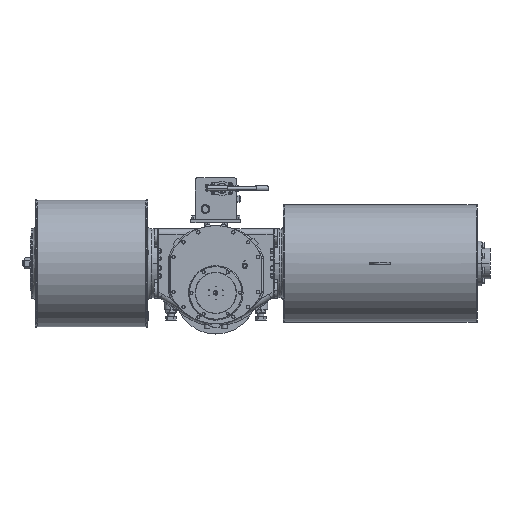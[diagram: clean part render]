
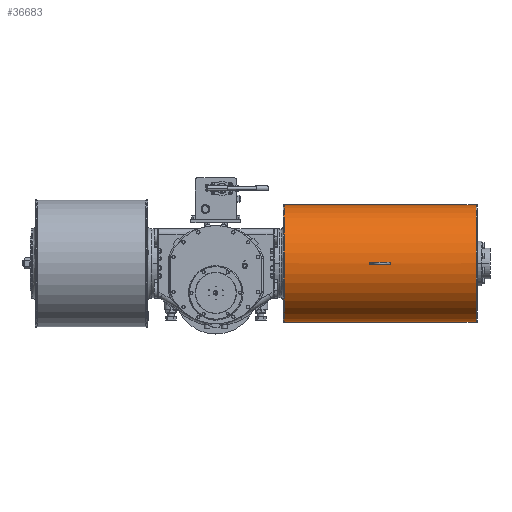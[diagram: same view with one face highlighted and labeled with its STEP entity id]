
A CAD part, top view. The second image highlights one B-rep face of the part: STEP entity #36683.
In plain terms, the highlighted cylindrical face has radius 340 mm (diameter 680 mm), a partial arc.
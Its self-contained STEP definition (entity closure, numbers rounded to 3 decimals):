
#25 = CARTESIAN_POINT ( 'NONE',  ( 892., 171., 478. ) ) ;
#1181 = ORIENTED_EDGE ( 'NONE', *, *, #56277, .T. ) ;
#2564 = DIRECTION ( 'NONE',  ( 1., 0., 0. ) ) ;
#2749 = VERTEX_POINT ( 'NONE', #79363 ) ;
#3417 = DIRECTION ( 'NONE',  ( -1., 0., 0. ) ) ;
#3441 = ORIENTED_EDGE ( 'NONE', *, *, #56937, .T. ) ;
#4214 = CARTESIAN_POINT ( 'NONE',  ( 1012., 166., 477.963 ) ) ;
#4279 = VECTOR ( 'NONE', #35803, 1000. ) ;
#5387 = CARTESIAN_POINT ( 'NONE',  ( 1502., 176., 477.963 ) ) ;
#7867 = DIRECTION ( 'NONE',  ( 0., -1., 0. ) ) ;
#8387 = DIRECTION ( 'NONE',  ( -1., 0., 0. ) ) ;
#9121 = CARTESIAN_POINT ( 'NONE',  ( 892., 171., 138. ) ) ;
#9366 = ORIENTED_EDGE ( 'NONE', *, *, #35135, .T. ) ;
#10139 = CARTESIAN_POINT ( 'NONE',  ( 1508.115, -169., 138. ) ) ;
#10150 = LINE ( 'NONE', #92891, #4279 ) ;
#10205 = CARTESIAN_POINT ( 'NONE',  ( 1508.115, 171., 138. ) ) ;
#12197 = EDGE_LOOP ( 'NONE', ( #9366, #64964, #1181, #30186 ) ) ;
#12862 = CIRCLE ( 'NONE', #23100, 340. ) ;
#13472 = ORIENTED_EDGE ( 'NONE', *, *, #54027, .T. ) ;
#14250 = CARTESIAN_POINT ( 'NONE',  ( 1502., 166., 477.963 ) ) ;
#17302 = VERTEX_POINT ( 'NONE', #4214 ) ;
#23100 = AXIS2_PLACEMENT_3D ( 'NONE', #37261, #53799, #78320 ) ;
#24879 = CARTESIAN_POINT ( 'NONE',  ( 1502., -169., 138. ) ) ;
#25179 = VECTOR ( 'NONE', #63548, 1000. ) ;
#25546 = CARTESIAN_POINT ( 'NONE',  ( 1012., 171., 138. ) ) ;
#27206 = VERTEX_POINT ( 'NONE', #35176 ) ;
#30014 = AXIS2_PLACEMENT_3D ( 'NONE', #52027, #3417, #75997 ) ;
#30186 = ORIENTED_EDGE ( 'NONE', *, *, #98047, .F. ) ;
#32142 = AXIS2_PLACEMENT_3D ( 'NONE', #10205, #42836, #65244 ) ;
#33519 = FACE_OUTER_BOUND ( 'NONE', #12197, .T. ) ;
#35135 = EDGE_CURVE ( 'NONE', #52265, #55415, #64515, .T. ) ;
#35176 = CARTESIAN_POINT ( 'NONE',  ( 892., 166., 477.963 ) ) ;
#35392 = ORIENTED_EDGE ( 'NONE', *, *, #88482, .F. ) ;
#35803 = DIRECTION ( 'NONE',  ( -1., 0., 0. ) ) ;
#36346 = LINE ( 'NONE', #14250, #51931 ) ;
#36683 = ADVANCED_FACE ( 'NONE', ( #65532, #33519 ), #41532, .T. ) ;
#37261 = CARTESIAN_POINT ( 'NONE',  ( 395.885, 171., 138. ) ) ;
#41532 = CYLINDRICAL_SURFACE ( 'NONE', #83234, 340. ) ;
#42836 = DIRECTION ( 'NONE',  ( -1., 0., 0. ) ) ;
#45174 = EDGE_CURVE ( 'NONE', #66123, #70833, #73249, .T. ) ;
#47051 = AXIS2_PLACEMENT_3D ( 'NONE', #25546, #2564, #58657 ) ;
#48184 = ORIENTED_EDGE ( 'NONE', *, *, #45174, .T. ) ;
#51931 = VECTOR ( 'NONE', #87909, 1000. ) ;
#52027 = CARTESIAN_POINT ( 'NONE',  ( 892., 171., 138. ) ) ;
#52265 = VERTEX_POINT ( 'NONE', #10139 ) ;
#52874 = AXIS2_PLACEMENT_3D ( 'NONE', #9121, #84360, #99352 ) ;
#53415 = EDGE_CURVE ( 'NONE', #55415, #62810, #10150, .T. ) ;
#53799 = DIRECTION ( 'NONE',  ( 1., 0., 0. ) ) ;
#54027 = EDGE_CURVE ( 'NONE', #2749, #85283, #91334, .T. ) ;
#55234 = CARTESIAN_POINT ( 'NONE',  ( 1508.115, 511., 138. ) ) ;
#55415 = VERTEX_POINT ( 'NONE', #55234 ) ;
#56277 = EDGE_CURVE ( 'NONE', #62810, #60691, #12862, .T. ) ;
#56937 = EDGE_CURVE ( 'NONE', #17302, #27206, #36346, .T. ) ;
#58657 = DIRECTION ( 'NONE',  ( 0., 0., 1. ) ) ;
#60691 = VERTEX_POINT ( 'NONE', #85541 ) ;
#62810 = VERTEX_POINT ( 'NONE', #94186 ) ;
#63543 = EDGE_CURVE ( 'NONE', #85283, #17302, #68099, .T. ) ;
#63548 = DIRECTION ( 'NONE',  ( -1., 0., 0. ) ) ;
#64515 = CIRCLE ( 'NONE', #32142, 340. ) ;
#64964 = ORIENTED_EDGE ( 'NONE', *, *, #53415, .T. ) ;
#65244 = DIRECTION ( 'NONE',  ( 0., -1., 0. ) ) ;
#65457 = LINE ( 'NONE', #24879, #70393 ) ;
#65482 = ORIENTED_EDGE ( 'NONE', *, *, #63543, .T. ) ;
#65532 = FACE_BOUND ( 'NONE', #92211, .T. ) ;
#66123 = VERTEX_POINT ( 'NONE', #25 ) ;
#68099 = CIRCLE ( 'NONE', #74948, 340. ) ;
#69250 = CIRCLE ( 'NONE', #30014, 340. ) ;
#70393 = VECTOR ( 'NONE', #89991, 1000. ) ;
#70833 = VERTEX_POINT ( 'NONE', #104936 ) ;
#73249 = CIRCLE ( 'NONE', #52874, 340. ) ;
#74948 = AXIS2_PLACEMENT_3D ( 'NONE', #102987, #78956, #86430 ) ;
#75109 = CARTESIAN_POINT ( 'NONE',  ( 1502., 171., 138. ) ) ;
#75997 = DIRECTION ( 'NONE',  ( 0., 1., 0. ) ) ;
#78320 = DIRECTION ( 'NONE',  ( 0., -1., 0. ) ) ;
#78508 = LINE ( 'NONE', #5387, #25179 ) ;
#78956 = DIRECTION ( 'NONE',  ( 1., 0., 0. ) ) ;
#79363 = CARTESIAN_POINT ( 'NONE',  ( 1012., 176., 477.963 ) ) ;
#80490 = CARTESIAN_POINT ( 'NONE',  ( 1012., 171., 478. ) ) ;
#83234 = AXIS2_PLACEMENT_3D ( 'NONE', #75109, #8387, #7867 ) ;
#84360 = DIRECTION ( 'NONE',  ( -1., 0., 0. ) ) ;
#84775 = EDGE_CURVE ( 'NONE', #27206, #66123, #69250, .T. ) ;
#85283 = VERTEX_POINT ( 'NONE', #80490 ) ;
#85541 = CARTESIAN_POINT ( 'NONE',  ( 395.885, -169., 138. ) ) ;
#86430 = DIRECTION ( 'NONE',  ( 0., 0., 1. ) ) ;
#87909 = DIRECTION ( 'NONE',  ( -1., 0., 0. ) ) ;
#88482 = EDGE_CURVE ( 'NONE', #2749, #70833, #78508, .T. ) ;
#89991 = DIRECTION ( 'NONE',  ( -1., 0., 0. ) ) ;
#91334 = CIRCLE ( 'NONE', #47051, 340. ) ;
#92211 = EDGE_LOOP ( 'NONE', ( #13472, #65482, #3441, #96157, #48184, #35392 ) ) ;
#92891 = CARTESIAN_POINT ( 'NONE',  ( 1502., 511., 138. ) ) ;
#94186 = CARTESIAN_POINT ( 'NONE',  ( 395.885, 511., 138. ) ) ;
#96157 = ORIENTED_EDGE ( 'NONE', *, *, #84775, .T. ) ;
#98047 = EDGE_CURVE ( 'NONE', #52265, #60691, #65457, .T. ) ;
#99352 = DIRECTION ( 'NONE',  ( 0., 1., 0. ) ) ;
#102987 = CARTESIAN_POINT ( 'NONE',  ( 1012., 171., 138. ) ) ;
#104936 = CARTESIAN_POINT ( 'NONE',  ( 892., 176., 477.963 ) ) ;
